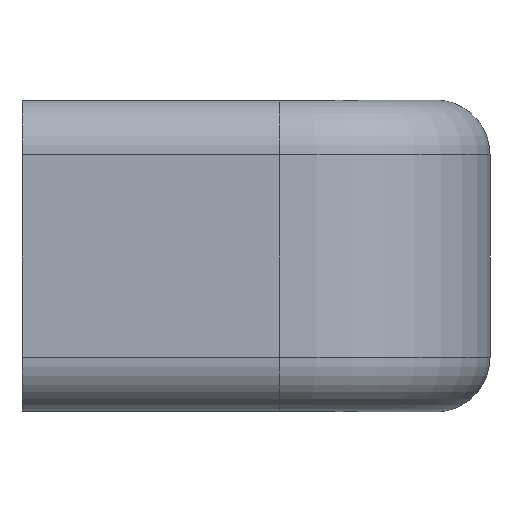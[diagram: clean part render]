
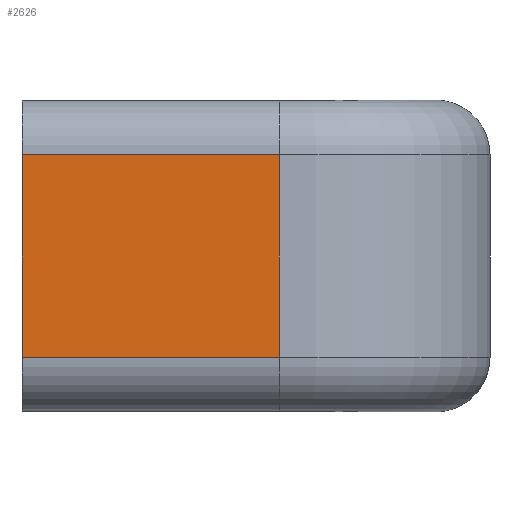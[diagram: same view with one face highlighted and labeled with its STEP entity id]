
A CAD part, front view. The second image highlights one B-rep face of the part: STEP entity #2626.
In plain terms, the highlighted planar face has unit normal (0, -1, 0).
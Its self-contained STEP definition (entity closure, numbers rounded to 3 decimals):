
#84 = CARTESIAN_POINT ( 'NONE',  ( -26.5, -51.5, 10. ) ) ;
#121 = LINE ( 'NONE', #2990, #3110 ) ;
#135 = VERTEX_POINT ( 'NONE', #3174 ) ;
#145 = EDGE_CURVE ( 'NONE', #2509, #177, #1525, .T. ) ;
#177 = VERTEX_POINT ( 'NONE', #1231 ) ;
#300 = DIRECTION ( 'NONE',  ( 1., 0., 0. ) ) ;
#404 = LINE ( 'NONE', #84, #728 ) ;
#443 = VERTEX_POINT ( 'NONE', #1997 ) ;
#461 = EDGE_LOOP ( 'NONE', ( #1927, #2823, #2549, #2144 ) ) ;
#485 = AXIS2_PLACEMENT_3D ( 'NONE', #1700, #1360, #1040 ) ;
#617 = CARTESIAN_POINT ( 'NONE',  ( -10., -51.5, -6.5 ) ) ;
#727 = FACE_OUTER_BOUND ( 'NONE', #461, .T. ) ;
#728 = VECTOR ( 'NONE', #2956, 1000. ) ;
#869 = DIRECTION ( 'NONE',  ( 0., 0., 1. ) ) ;
#953 = LINE ( 'NONE', #617, #2036 ) ;
#1040 = DIRECTION ( 'NONE',  ( 0., 0., -1. ) ) ;
#1129 = VECTOR ( 'NONE', #869, 1000. ) ;
#1198 = CARTESIAN_POINT ( 'NONE',  ( -10., -51.5, 10. ) ) ;
#1231 = CARTESIAN_POINT ( 'NONE',  ( -10., -51.5, 6.5 ) ) ;
#1360 = DIRECTION ( 'NONE',  ( 0., -1., 0. ) ) ;
#1525 = LINE ( 'NONE', #1198, #1129 ) ;
#1657 = EDGE_CURVE ( 'NONE', #135, #443, #404, .T. ) ;
#1700 = CARTESIAN_POINT ( 'NONE',  ( -10., -51.5, 10. ) ) ;
#1927 = ORIENTED_EDGE ( 'NONE', *, *, #1657, .F. ) ;
#1997 = CARTESIAN_POINT ( 'NONE',  ( -26.5, -51.5, 6.5 ) ) ;
#2036 = VECTOR ( 'NONE', #300, 1000. ) ;
#2038 = PLANE ( 'NONE',  #485 ) ;
#2144 = ORIENTED_EDGE ( 'NONE', *, *, #2430, .T. ) ;
#2430 = EDGE_CURVE ( 'NONE', #177, #443, #121, .T. ) ;
#2509 = VERTEX_POINT ( 'NONE', #2767 ) ;
#2549 = ORIENTED_EDGE ( 'NONE', *, *, #145, .T. ) ;
#2626 = ADVANCED_FACE ( 'NONE', ( #727 ), #2038, .T. ) ;
#2674 = DIRECTION ( 'NONE',  ( -1., 0., 0. ) ) ;
#2767 = CARTESIAN_POINT ( 'NONE',  ( -10., -51.5, -6.5 ) ) ;
#2823 = ORIENTED_EDGE ( 'NONE', *, *, #3055, .T. ) ;
#2956 = DIRECTION ( 'NONE',  ( 0., 0., 1. ) ) ;
#2990 = CARTESIAN_POINT ( 'NONE',  ( -26.5, -51.5, 6.5 ) ) ;
#3055 = EDGE_CURVE ( 'NONE', #135, #2509, #953, .T. ) ;
#3110 = VECTOR ( 'NONE', #2674, 1000. ) ;
#3174 = CARTESIAN_POINT ( 'NONE',  ( -26.5, -51.5, -6.5 ) ) ;
